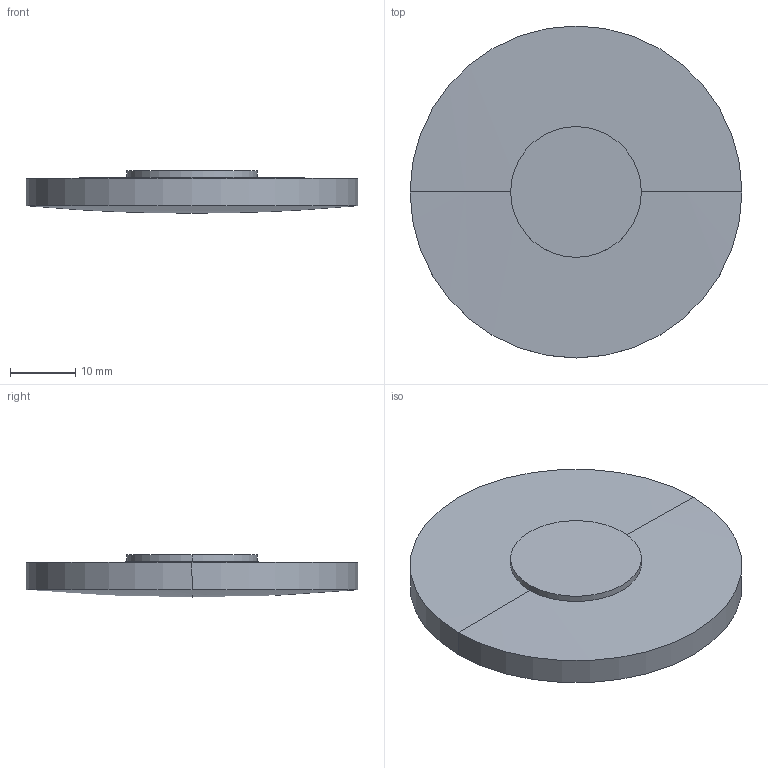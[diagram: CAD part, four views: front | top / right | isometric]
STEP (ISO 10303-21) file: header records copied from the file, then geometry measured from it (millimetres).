
FILE_DESCRIPTION(('STEP AP214'),'1');
FILE_NAME('LLV-51475.STEP','2020-03-09T17:42:27',(' '),(' '),'Spatial InterOp 3D',' ',' ');
FILE_SCHEMA(('AUTOMOTIVE_DESIGN { 1 0 10303 214 1 1 1 1 }'));
Length unit declared in the file: millimetre
Products named in the file (1): 1
Bounding box: 50.8 x 50.8 x 6.5 mm (x, y, z)
Volume: 10072.8 mm3; surface area: 5408 mm2
Topology: 2 solids, 2 shells, 10 faces, 20 edges, 10 vertices
Faces by surface type: sphere 4, cylinder 4, plane 2
Entity records: 255 total; most frequent: DIRECTION 52, CARTESIAN_POINT 38, ORIENTED_EDGE 32, AXIS2_PLACEMENT_3D 24, EDGE_CURVE 16, CIRCLE 12, ADVANCED_FACE 10, FACE_OUTER_BOUND 10
